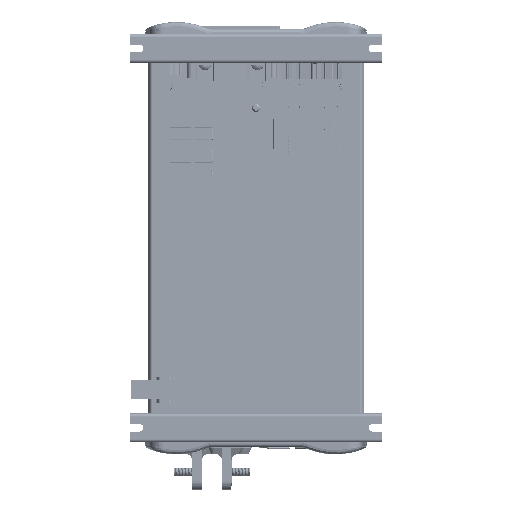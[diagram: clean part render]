
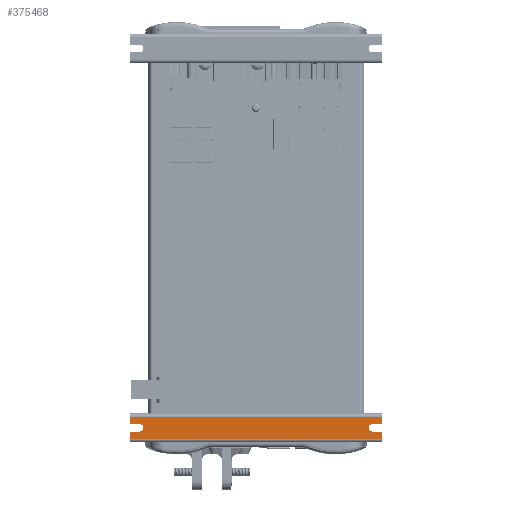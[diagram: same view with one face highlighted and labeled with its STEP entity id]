
A CAD part, front view. The second image highlights one B-rep face of the part: STEP entity #375468.
In plain terms, the highlighted planar face has unit normal (0, -1, 0).
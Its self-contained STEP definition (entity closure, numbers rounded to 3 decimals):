
#374081=DIRECTION('',(0.,0.,-1.));
#374082=VECTOR('',#374081,5.2);
#374083=CARTESIAN_POINT('',(-87.5,-22.,-1.));
#374084=LINE('',#374083,#374082);
#374093=DIRECTION('',(0.,0.,-1.));
#374094=VECTOR('',#374093,5.2);
#374095=CARTESIAN_POINT('',(-87.5,-22.,-11.4));
#374096=LINE('',#374095,#374094);
#374102=DIRECTION('',(1.,0.,0.));
#374103=VECTOR('',#374102,7.);
#374104=CARTESIAN_POINT('',(-87.5,-22.,-6.2));
#374105=LINE('',#374104,#374103);
#374106=DIRECTION('',(1.,0.,0.));
#374107=VECTOR('',#374106,175.);
#374108=CARTESIAN_POINT('',(-87.5,-22.,-1.));
#374109=LINE('',#374108,#374107);
#374110=DIRECTION('',(-1.,0.,0.));
#374111=VECTOR('',#374110,7.);
#374112=CARTESIAN_POINT('',(87.5,-22.,-6.2));
#374113=LINE('',#374112,#374111);
#374114=CARTESIAN_POINT('',(80.5,-22.,-8.8));
#374115=DIRECTION('',(0.,1.,0.));
#374116=DIRECTION('',(0.,0.,-1.));
#374117=AXIS2_PLACEMENT_3D('',#374114,#374115,#374116);
#374119=DIRECTION('',(-1.,0.,0.));
#374120=VECTOR('',#374119,7.);
#374121=CARTESIAN_POINT('',(87.5,-22.,-11.4));
#374122=LINE('',#374121,#374120);
#374123=DIRECTION('',(1.,0.,0.));
#374124=VECTOR('',#374123,175.);
#374125=CARTESIAN_POINT('',(-87.5,-22.,-16.6));
#374126=LINE('',#374125,#374124);
#374127=DIRECTION('',(1.,0.,0.));
#374128=VECTOR('',#374127,7.);
#374129=CARTESIAN_POINT('',(-87.5,-22.,-11.4));
#374130=LINE('',#374129,#374128);
#374131=CARTESIAN_POINT('',(-80.5,-22.,-8.8));
#374132=DIRECTION('',(0.,1.,0.));
#374133=DIRECTION('',(0.,0.,1.));
#374134=AXIS2_PLACEMENT_3D('',#374131,#374132,#374133);
#374140=DIRECTION('',(0.,0.,1.));
#374141=VECTOR('',#374140,5.2);
#374142=CARTESIAN_POINT('',(87.5,-22.,-6.2));
#374143=LINE('',#374142,#374141);
#374162=DIRECTION('',(0.,0.,1.));
#374163=VECTOR('',#374162,5.2);
#374164=CARTESIAN_POINT('',(87.5,-22.,-16.6));
#374165=LINE('',#374164,#374163);
#374720=CARTESIAN_POINT('',(-87.5,-22.,-16.6));
#374721=CARTESIAN_POINT('',(87.5,-22.,-16.6));
#374722=VERTEX_POINT('',#374720);
#374723=VERTEX_POINT('',#374721);
#374756=CARTESIAN_POINT('',(-87.5,-22.,-6.2));
#374758=VERTEX_POINT('',#374756);
#374760=CARTESIAN_POINT('',(-87.5,-22.,-11.4));
#374762=VERTEX_POINT('',#374760);
#374764=CARTESIAN_POINT('',(-80.5,-22.,-6.2));
#374765=VERTEX_POINT('',#374764);
#374766=CARTESIAN_POINT('',(-80.5,-22.,-11.4));
#374767=VERTEX_POINT('',#374766);
#374768=CARTESIAN_POINT('',(87.5,-22.,-11.4));
#374769=CARTESIAN_POINT('',(80.5,-22.,-11.4));
#374770=VERTEX_POINT('',#374768);
#374771=VERTEX_POINT('',#374769);
#374772=CARTESIAN_POINT('',(80.5,-22.,-6.2));
#374773=VERTEX_POINT('',#374772);
#374774=CARTESIAN_POINT('',(87.5,-22.,-6.2));
#374775=VERTEX_POINT('',#374774);
#374788=CARTESIAN_POINT('',(87.5,-22.,-1.));
#374789=VERTEX_POINT('',#374788);
#374790=CARTESIAN_POINT('',(-87.5,-22.,-1.));
#374791=VERTEX_POINT('',#374790);
#375440=CARTESIAN_POINT('',(-87.5,-22.,0.));
#375441=DIRECTION('',(0.,-1.,0.));
#375442=DIRECTION('',(1.,0.,0.));
#375443=AXIS2_PLACEMENT_3D('',#375440,#375441,#375442);
#375444=PLANE('',#375443);
#375445=ORIENTED_EDGE('',*,*,#375431,.F.);
#375446=ORIENTED_EDGE('',*,*,#375402,.F.);
#375448=ORIENTED_EDGE('',*,*,#375447,.T.);
#375450=ORIENTED_EDGE('',*,*,#375449,.F.);
#375452=ORIENTED_EDGE('',*,*,#375451,.T.);
#375454=ORIENTED_EDGE('',*,*,#375453,.F.);
#375456=ORIENTED_EDGE('',*,*,#375455,.F.);
#375458=ORIENTED_EDGE('',*,*,#375457,.F.);
#375460=ORIENTED_EDGE('',*,*,#375459,.F.);
#375461=ORIENTED_EDGE('',*,*,#375418,.F.);
#375463=ORIENTED_EDGE('',*,*,#375462,.T.);
#375465=ORIENTED_EDGE('',*,*,#375464,.F.);
#375466=EDGE_LOOP('',(#375445,#375446,#375448,#375450,#375452,#375454,#375456,
#375458,#375460,#375461,#375463,#375465));
#375467=FACE_OUTER_BOUND('',#375466,.F.);
#375468=ADVANCED_FACE('',(#375467),#375444,.T.);
#374118=CIRCLE('',#374117,2.6);
#374135=CIRCLE('',#374134,2.6);
#375402=EDGE_CURVE('',#374791,#374758,#374084,.T.);
#375418=EDGE_CURVE('',#374762,#374722,#374096,.T.);
#375431=EDGE_CURVE('',#374758,#374765,#374105,.T.);
#375447=EDGE_CURVE('',#374791,#374789,#374109,.T.);
#375449=EDGE_CURVE('',#374775,#374789,#374143,.T.);
#375451=EDGE_CURVE('',#374775,#374773,#374113,.T.);
#375453=EDGE_CURVE('',#374771,#374773,#374118,.T.);
#375455=EDGE_CURVE('',#374770,#374771,#374122,.T.);
#375457=EDGE_CURVE('',#374723,#374770,#374165,.T.);
#375459=EDGE_CURVE('',#374722,#374723,#374126,.T.);
#375462=EDGE_CURVE('',#374762,#374767,#374130,.T.);
#375464=EDGE_CURVE('',#374765,#374767,#374135,.T.);
